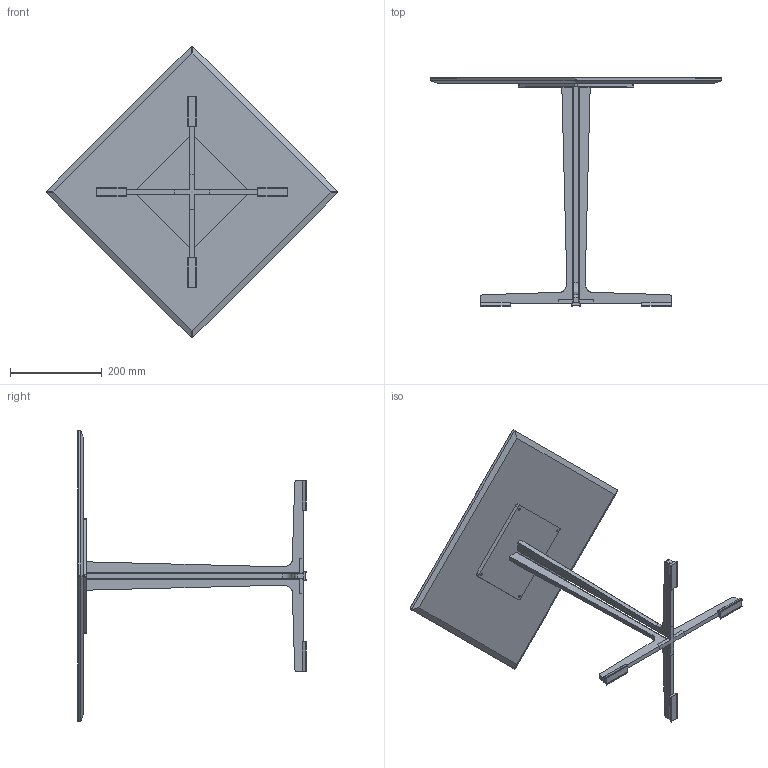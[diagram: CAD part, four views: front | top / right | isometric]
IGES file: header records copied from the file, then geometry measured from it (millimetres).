
Start section: SolidWorks IGES file using analytic representation for surfaces
Global section: file name: W:\design\CKR\spilt\IGS\45X45.IGS; native system: SolidWorks 2010; preprocessor: SolidWorks 2010; author: PC20; date: 150212.183447; units: millimetre
Bounding box: 633.91 x 497 x 633.91 mm (x, y, z)
Surface area: 659703.4 mm2 (no closed solid volume)
Topology: 0 solids, 0 shells, 243 faces, 4500 edges, 5770 vertices
Faces by surface type: bspline 170, revolution 73
